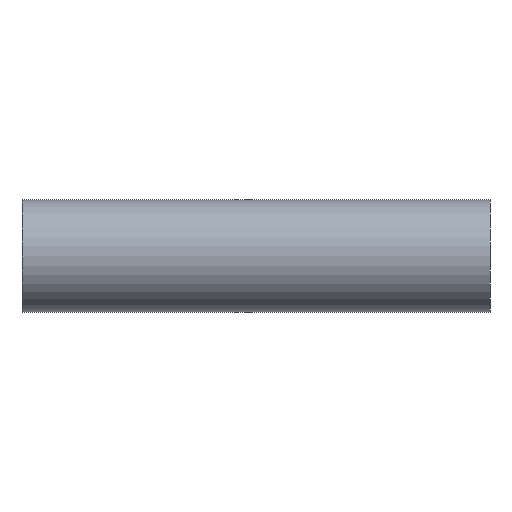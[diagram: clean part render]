
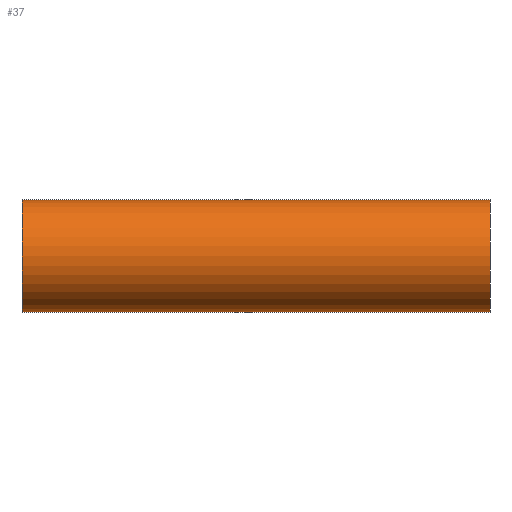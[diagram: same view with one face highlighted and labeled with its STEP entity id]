
A CAD part, front view. The second image highlights one B-rep face of the part: STEP entity #37.
In plain terms, the highlighted cylindrical face has radius 6 mm (diameter 12 mm), a full revolution.
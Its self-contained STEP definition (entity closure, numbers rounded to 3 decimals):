
#37 = ADVANCED_FACE( '', ( #72, #73, #74 ), #75, .T. );
#72 = FACE_BOUND( '', #105, .T. );
#73 = FACE_OUTER_BOUND( '', #106, .T. );
#74 = FACE_OUTER_BOUND( '', #107, .T. );
#75 = CYLINDRICAL_SURFACE( '', #108, 6. );
#105 = EDGE_LOOP( '', ( #138 ) );
#106 = EDGE_LOOP( '', ( #139 ) );
#107 = EDGE_LOOP( '', ( #140 ) );
#108 = AXIS2_PLACEMENT_3D( '', #141, #142, #143 );
#138 = ORIENTED_EDGE( '', *, *, #163, .F. );
#139 = ORIENTED_EDGE( '', *, *, #169, .F. );
#140 = ORIENTED_EDGE( '', *, *, #167, .T. );
#141 = CARTESIAN_POINT( '', ( 25., -29., 0. ) );
#142 = DIRECTION( '', ( 1., 0., 0. ) );
#143 = DIRECTION( '', ( 0., 0., 1. ) );
#163 = EDGE_CURVE( '', #177, #177, #178, .T. );
#167 = EDGE_CURVE( '', #183, #183, #184, .T. );
#169 = EDGE_CURVE( '', #186, #186, #187, .T. );
#177 = VERTEX_POINT( '', #196 );
#178 = B_SPLINE_CURVE_WITH_KNOTS( '', 3, ( #197, #198, #199, #200, #201, #202, #203, #204, #205, #206, #207, #208, #209, #210, #211, #212, #213, #214, #215, #216, #217, #218, #219, #220, #221, #222, #223, #224, #225, #226, #227, #228, #229, #230, #231, #232, #233, #234, #235, #236, #237, #238, #239, #240, #241, #242, #243, #244, #245, #246, #247, #248, #249, #250, #251, #252, #253, #254, #255, #256, #257, #258, #259, #260, #261, #262, #263, #264, #265, #266, #267, #268, #269, #270, #271, #272, #273, #274, #275 ), .UNSPECIFIED., .T., .F., ( 2, 2, 2, 2, 2, 2, 2, 2, 2, 2, 2, 2, 2, 2, 2, 2, 2, 2, 2, 2, 2, 2, 2, 2, 2, 2, 2, 2, 2, 2, 1, 2, 2, 2, 2, 2, 2, 2, 2, 2, 2, 2 ), ( -0.001, 0., 0.001, 0.002, 0.003, 0.004, 0.005, 0.006, 0.007, 0.008, 0.009, 0.009, 0.01, 0.011, 0.012, 0.013, 0.014, 0.015, 0.015, 0.016, 0.016, 0.017, 0.017, 0.018, 0.019, 0.02, 0.021, 0.022, 0.023, 0.024, 0.024, 0.025, 0.025, 0.027, 0.028, 0.029, 0.03, 0.031, 0.031, 0.032, 0.033, 0.034 ), .UNSPECIFIED. );
#183 = VERTEX_POINT( '', #280 );
#184 = CIRCLE( '', #281, 6. );
#186 = VERTEX_POINT( '', #283 );
#187 = CIRCLE( '', #284, 6. );
#196 = CARTESIAN_POINT( '', ( 0., -25.537, 4.9 ) );
#197 = CARTESIAN_POINT( '', ( -0.346, -25.537, 4.9 ) );
#198 = CARTESIAN_POINT( '', ( 0.346, -25.537, 4.9 ) );
#199 = CARTESIAN_POINT( '', ( 0.679, -25.485, 4.864 ) );
#200 = CARTESIAN_POINT( '', ( 1.329, -25.304, 4.728 ) );
#201 = CARTESIAN_POINT( '', ( 1.632, -25.18, 4.631 ) );
#202 = CARTESIAN_POINT( '', ( 2.204, -24.903, 4.387 ) );
#203 = CARTESIAN_POINT( '', ( 2.475, -24.748, 4.24 ) );
#204 = CARTESIAN_POINT( '', ( 2.977, -24.438, 3.904 ) );
#205 = CARTESIAN_POINT( '', ( 3.21, -24.281, 3.715 ) );
#206 = CARTESIAN_POINT( '', ( 3.643, -23.976, 3.29 ) );
#207 = CARTESIAN_POINT( '', ( 3.846, -23.827, 3.053 ) );
#208 = CARTESIAN_POINT( '', ( 4.202, -23.557, 2.54 ) );
#209 = CARTESIAN_POINT( '', ( 4.358, -23.435, 2.265 ) );
#210 = CARTESIAN_POINT( '', ( 4.62, -23.227, 1.666 ) );
#211 = CARTESIAN_POINT( '', ( 4.722, -23.144, 1.35 ) );
#212 = CARTESIAN_POINT( '', ( 4.862, -23.031, 0.694 ) );
#213 = CARTESIAN_POINT( '', ( 4.899, -23.001, 0.349 ) );
#214 = CARTESIAN_POINT( '', ( 4.9, -23., -0.16 ) );
#215 = CARTESIAN_POINT( '', ( 4.892, -23.007, -0.33 ) );
#216 = CARTESIAN_POINT( '', ( 4.857, -23.035, -0.668 ) );
#217 = CARTESIAN_POINT( '', ( 4.831, -23.056, -0.837 ) );
#218 = CARTESIAN_POINT( '', ( 4.727, -23.14, -1.333 ) );
#219 = CARTESIAN_POINT( '', ( 4.626, -23.222, -1.648 ) );
#220 = CARTESIAN_POINT( '', ( 4.366, -23.428, -2.249 ) );
#221 = CARTESIAN_POINT( '', ( 4.209, -23.551, -2.528 ) );
#222 = CARTESIAN_POINT( '', ( 3.853, -23.821, -3.043 ) );
#223 = CARTESIAN_POINT( '', ( 3.652, -23.97, -3.281 ) );
#224 = CARTESIAN_POINT( '', ( 3.218, -24.275, -3.708 ) );
#225 = CARTESIAN_POINT( '', ( 2.984, -24.433, -3.898 ) );
#226 = CARTESIAN_POINT( '', ( 2.478, -24.747, -4.238 ) );
#227 = CARTESIAN_POINT( '', ( 2.209, -24.9, -4.385 ) );
#228 = CARTESIAN_POINT( '', ( 1.781, -25.108, -4.567 ) );
#229 = CARTESIAN_POINT( '', ( 1.634, -25.174, -4.622 ) );
#230 = CARTESIAN_POINT( '', ( 1.328, -25.294, -4.719 ) );
#231 = CARTESIAN_POINT( '', ( 1.169, -25.348, -4.761 ) );
#232 = CARTESIAN_POINT( '', ( 0.847, -25.439, -4.829 ) );
#233 = CARTESIAN_POINT( '', ( 0.683, -25.475, -4.855 ) );
#234 = CARTESIAN_POINT( '', ( 0.346, -25.524, -4.891 ) );
#235 = CARTESIAN_POINT( '', ( 0.172, -25.537, -4.9 ) );
#236 = CARTESIAN_POINT( '', ( -0.168, -25.537, -4.9 ) );
#237 = CARTESIAN_POINT( '', ( -0.338, -25.525, -4.891 ) );
#238 = CARTESIAN_POINT( '', ( -0.674, -25.476, -4.856 ) );
#239 = CARTESIAN_POINT( '', ( -0.842, -25.44, -4.83 ) );
#240 = CARTESIAN_POINT( '', ( -1.326, -25.305, -4.729 ) );
#241 = CARTESIAN_POINT( '', ( -1.628, -25.182, -4.632 ) );
#242 = CARTESIAN_POINT( '', ( -2.206, -24.902, -4.387 ) );
#243 = CARTESIAN_POINT( '', ( -2.473, -24.75, -4.241 ) );
#244 = CARTESIAN_POINT( '', ( -2.974, -24.44, -3.906 ) );
#245 = CARTESIAN_POINT( '', ( -3.209, -24.281, -3.716 ) );
#246 = CARTESIAN_POINT( '', ( -3.647, -23.974, -3.287 ) );
#247 = CARTESIAN_POINT( '', ( -3.844, -23.827, -3.054 ) );
#248 = CARTESIAN_POINT( '', ( -4.199, -23.559, -2.545 ) );
#249 = CARTESIAN_POINT( '', ( -4.356, -23.436, -2.268 ) );
#250 = CARTESIAN_POINT( '', ( -4.619, -23.228, -1.668 ) );
#251 = CARTESIAN_POINT( '', ( -4.721, -23.145, -1.354 ) );
#252 = CARTESIAN_POINT( '', ( -4.827, -23.06, -0.86 ) );
#253 = CARTESIAN_POINT( '', ( -4.854, -23.037, -0.69 ) );
#254 = CARTESIAN_POINT( '', ( -4.89, -23.008, -0.351 ) );
#255 = CARTESIAN_POINT( '', ( -4.909, -22.993, -0.012 ) );
#256 = CARTESIAN_POINT( '', ( -4.892, -23.007, 0.327 ) );
#257 = CARTESIAN_POINT( '', ( -4.857, -23.035, 0.668 ) );
#258 = CARTESIAN_POINT( '', ( -4.831, -23.056, 0.837 ) );
#259 = CARTESIAN_POINT( '', ( -4.728, -23.14, 1.332 ) );
#260 = CARTESIAN_POINT( '', ( -4.626, -23.222, 1.649 ) );
#261 = CARTESIAN_POINT( '', ( -4.365, -23.429, 2.251 ) );
#262 = CARTESIAN_POINT( '', ( -4.209, -23.551, 2.528 ) );
#263 = CARTESIAN_POINT( '', ( -3.851, -23.822, 3.046 ) );
#264 = CARTESIAN_POINT( '', ( -3.65, -23.971, 3.283 ) );
#265 = CARTESIAN_POINT( '', ( -3.216, -24.277, 3.71 ) );
#266 = CARTESIAN_POINT( '', ( -2.979, -24.437, 3.902 ) );
#267 = CARTESIAN_POINT( '', ( -2.473, -24.75, 4.241 ) );
#268 = CARTESIAN_POINT( '', ( -2.206, -24.902, 4.386 ) );
#269 = CARTESIAN_POINT( '', ( -1.78, -25.109, 4.568 ) );
#270 = CARTESIAN_POINT( '', ( -1.633, -25.174, 4.623 ) );
#271 = CARTESIAN_POINT( '', ( -1.328, -25.294, 4.719 ) );
#272 = CARTESIAN_POINT( '', ( -1.168, -25.349, 4.762 ) );
#273 = CARTESIAN_POINT( '', ( -0.682, -25.485, 4.864 ) );
#274 = CARTESIAN_POINT( '', ( -0.346, -25.537, 4.9 ) );
#275 = CARTESIAN_POINT( '', ( 0.346, -25.537, 4.9 ) );
#280 = CARTESIAN_POINT( '', ( -25., -29., -6. ) );
#281 = AXIS2_PLACEMENT_3D( '', #296, #297, #298 );
#283 = CARTESIAN_POINT( '', ( 25., -29., -6. ) );
#284 = AXIS2_PLACEMENT_3D( '', #299, #300, #301 );
#296 = CARTESIAN_POINT( '', ( -25., -29., 0. ) );
#297 = DIRECTION( '', ( 1., 0., 0. ) );
#298 = DIRECTION( '', ( 0., 0., -1. ) );
#299 = CARTESIAN_POINT( '', ( 25., -29., 0. ) );
#300 = DIRECTION( '', ( 1., 0., 0. ) );
#301 = DIRECTION( '', ( 0., 0., -1. ) );
